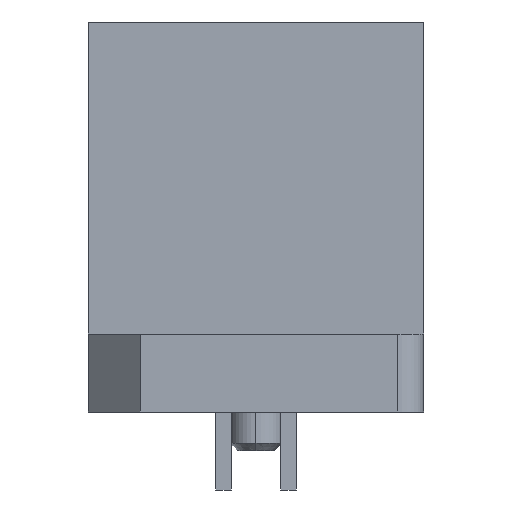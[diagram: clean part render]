
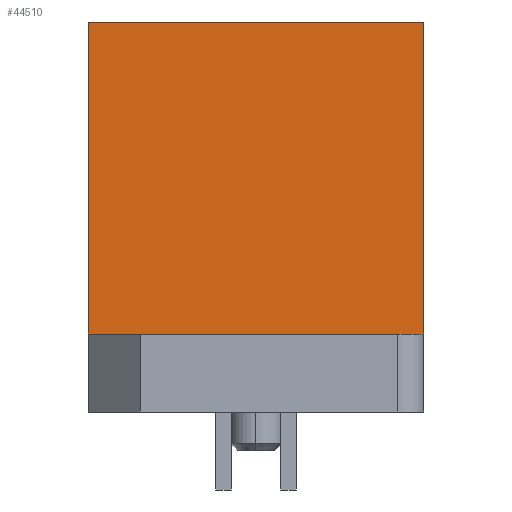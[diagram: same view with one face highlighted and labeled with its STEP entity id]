
A CAD part, left-side view. The second image highlights one B-rep face of the part: STEP entity #44510.
In plain terms, the highlighted planar face has unit normal (-1, 0, 0).
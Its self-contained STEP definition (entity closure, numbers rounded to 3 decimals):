
#31250=CARTESIAN_POINT('',(21.472,-7.636,-5.5));
#31260=VERTEX_POINT('',#31250);
#31290=CARTESIAN_POINT('',(21.472,0.364,-5.5));
#31300=DIRECTION('',(0.,1.,0.));
#31310=VECTOR('',#31300,1.);
#31320=LINE('',#31290,#31310);
#31330=CARTESIAN_POINT('',(21.472,5.264,-5.5));
#31340=VERTEX_POINT('',#31330);
#31350=EDGE_CURVE('',#31260,#31340,#31320,.T.);
#38960=CARTESIAN_POINT('',(21.472,-7.636,-17.5));
#38970=VERTEX_POINT('',#38960);
#39000=CARTESIAN_POINT('',(21.472,-7.636,
-13.));
#39010=DIRECTION('',(0.,0.,1.));
#39020=VECTOR('',#39010,1.);
#39030=LINE('',#39000,#39020);
#39040=EDGE_CURVE('',#38970,#31260,#39030,.T.);
#42880=CARTESIAN_POINT('',(21.472,5.264,
-13.));
#42890=DIRECTION('',(0.,0.,-1.));
#42900=VECTOR('',#42890,1.);
#42910=LINE('',#42880,#42900);
#42920=CARTESIAN_POINT('',(21.472,5.264,-17.5));
#42930=VERTEX_POINT('',#42920);
#42940=EDGE_CURVE('',#31340,#42930,#42910,.T.);
#44160=CARTESIAN_POINT('',(21.472,0.364,-17.5));
#44170=DIRECTION('',(0.,1.,0.));
#44180=VECTOR('',#44170,1.);
#44190=LINE('',#44160,#44180);
#44200=EDGE_CURVE('',#38970,#42930,#44190,.T.);
#44400=CARTESIAN_POINT('',(21.472,6.554,-19.1));
#44410=DIRECTION('',(-1.,0.,0.));
#44420=DIRECTION('',(0.,0.,1.));
#44430=AXIS2_PLACEMENT_3D('',#44400,#44410,#44420);
#44440=PLANE('',#44430);
#44450=ORIENTED_EDGE('',*,*,#42940,.T.);
#44460=ORIENTED_EDGE('',*,*,#31350,.T.);
#44470=ORIENTED_EDGE('',*,*,#39040,.T.);
#44480=ORIENTED_EDGE('',*,*,#44200,.F.);
#44490=EDGE_LOOP('',(#44480,#44470,#44460,#44450));
#44500=FACE_OUTER_BOUND('',#44490,.T.);
#44510=ADVANCED_FACE('',(#44500),#44440,.T.);
